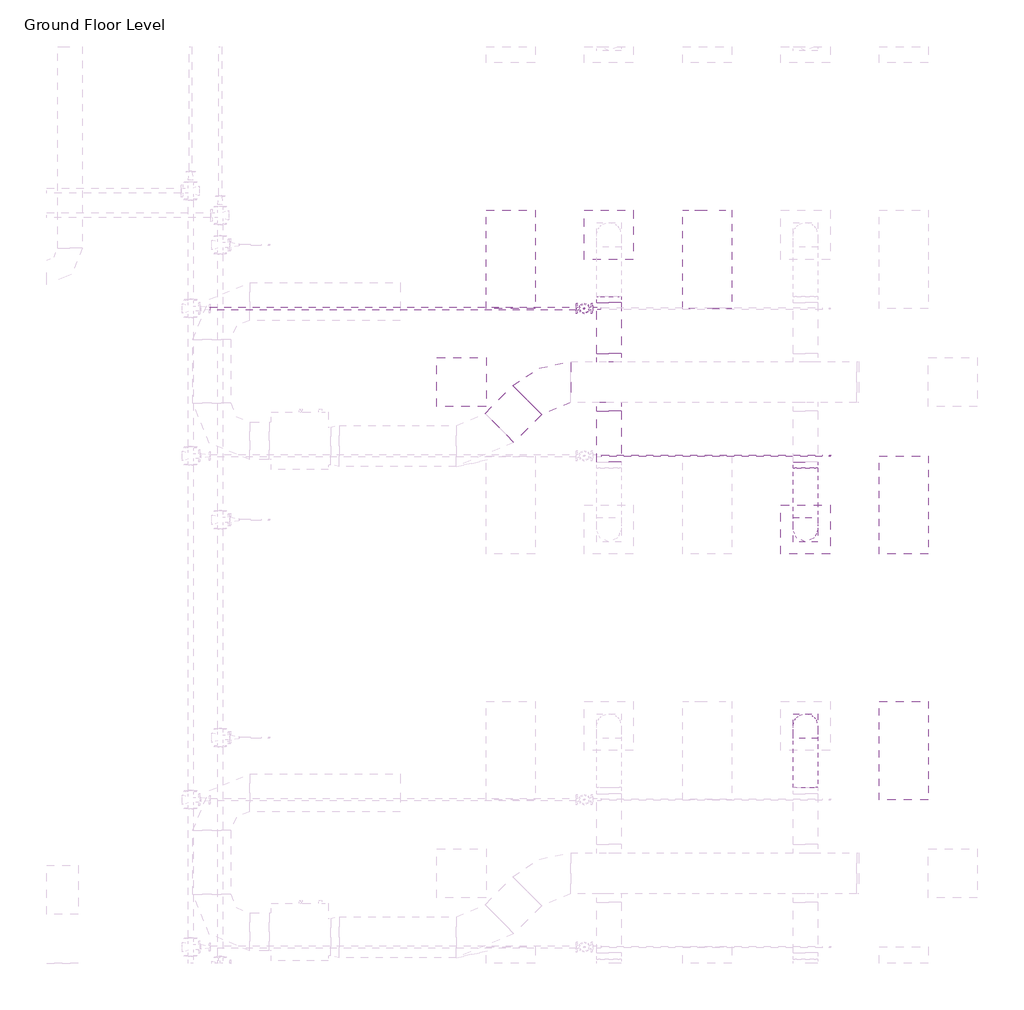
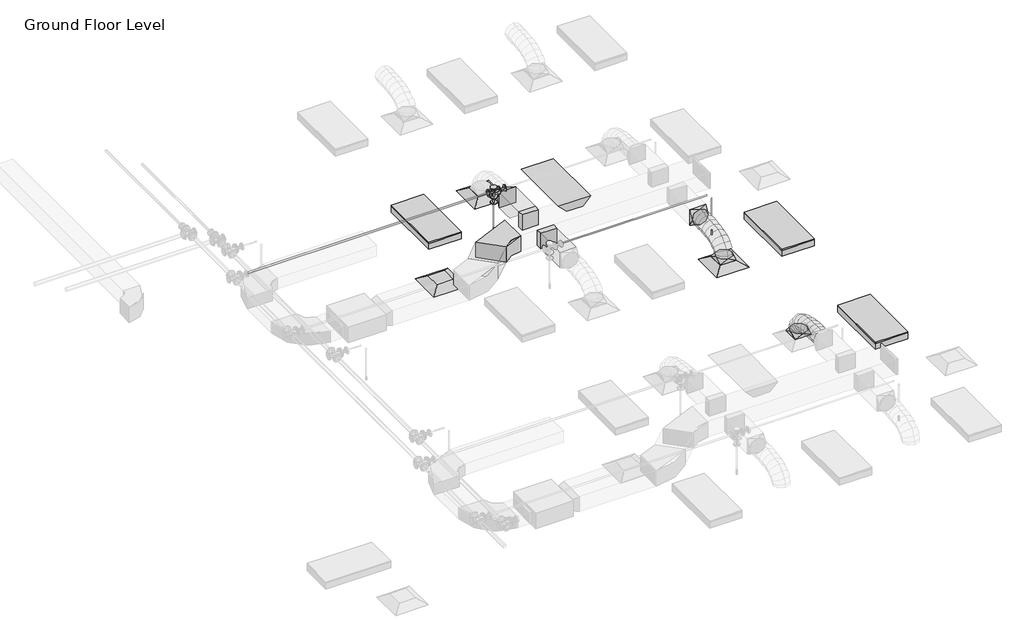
# One storey, part 64 of 68: 7 duct fittings, 5 duct segments, 4 light fixtures, 4 pipe segments, 3 air terminals, 3 pipe fittings, 2 fire suppression terminals.
"""IFC4 building model written with IfcOpenShell, lengths in millimetres."""

from ifc_helpers import new_model, si_unit, point, frame, frame_2d, origin, place, context, project, spatial, polyline, circle_curve, ellipse_curve, trimmed, segment, composite_curve, outline, extrude, transform, mapped, element, save
from ifc_brep_helpers import plane_surface, cylinder_surface, advanced_brep
from components import m_return_diffuser_600_x_600_face_300_x_300_connection_ff221211, m_rectangular_elbow_radius_1_5_w_acc56c25, m_rectangular_takeoff_standard_cb0ccb98, m_rectangular_takeoff_standard_2be5eba1, m_rectangular_to_round_transition_angle_45_degree_641efff0, m_sprinkler_dry_pendent_hosted_15_mm_dry_pendent_9bda8e11, m_emergency_recessed_lighting_fixture_600x1200_277_5b10b25d, m_troffer_light_parabolic_rectangular1_0600x1200mm_4_lamp_86473d4a, m_reducer_flanged_cs_class_150_standard_ccf252ad, m_tee_round_base_flanged_cs_class_150_standard_7e5987a1

model = new_model("IFC4")

# Units and contexts
model_context = context("Model", 3, world=origin())
ifc_project = project(units=[si_unit("LENGTHUNIT", "METRE", prefix="MILLI")], contexts=[model_context])

# Site, building, storey
site = spatial("IfcSite", under=ifc_project)
building = spatial("IfcBuilding", under=site)
storey = spatial("IfcBuildingStorey", under=building, Name="Ground Floor Level", Elevation=900.0)

# Air terminals
placement = place(None, origin())
m_return_diffuser_600_x_600_face_300_x_300_connection_shape = m_return_diffuser_600_x_600_face_300_x_300_connection_ff221211(model_context)
element("IfcAirTerminal", 1, ObjectType="M_Return Diffuser : 600 x 600 Face 300 x 300 Connection", at=placement, inside=storey, context=model_context, shape_type="MappedRepresentation", body=[
    mapped(m_return_diffuser_600_x_600_face_300_x_300_connection_shape, transform((8942.7672395, 12735.2153534, 3650.0), x_axis=(1.0, 0.0, 0.0), y_axis=(0.0, 1.0, 0.0), z_axis=(0.0, 0.0, 1.0))),
])
element("IfcAirTerminal", 2, ObjectType="M_Supply Diffuser : 600 x 600 Face 300 x 300 Connection", at=placement, inside=storey, context=model_context, shape_type="MappedRepresentation", body=[
    mapped(m_return_diffuser_600_x_600_face_300_x_300_connection_shape, transform((10742.7672395, 14535.2153534, 3650.0), x_axis=(1.0, 0.0, 0.0), y_axis=(0.0, 1.0, 0.0), z_axis=(0.0, 0.0, 1.0))),
])
element("IfcAirTerminal", 3, ObjectType="M_Supply Diffuser : 600 x 600 Face 300 x 300 Connection", at=placement, inside=storey, context=model_context, shape_type="MappedRepresentation", body=[
    mapped(m_return_diffuser_600_x_600_face_300_x_300_connection_shape, transform((13142.7672395, 10935.2153534, 3650.0), x_axis=(1.0, 0.0, 0.0), y_axis=(0.0, 1.0, 0.0), z_axis=(0.0, 0.0, 1.0))),
])

# Duct fittings
m_rectangular_elbow_radius_1_5_w_shape = m_rectangular_elbow_radius_1_5_w_acc56c25(model_context)
element("IfcDuctFitting", 4, ObjectType="M_Rectangular Elbow - Radius : 1.5 W", at=placement, inside=storey, context=model_context, shape_type="MappedRepresentation", body=[
    mapped(m_rectangular_elbow_radius_1_5_w_shape, transform((9966.7301365, 12735.2153534, 4100.0), x_axis=(-1.0, 0.0, 0.0), y_axis=(0.0, -0.9999999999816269, 6.061864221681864e-06), z_axis=(0.0, 6.061864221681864e-06, 0.9999999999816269))),
])
m_rectangular_takeoff_standard_shape = m_rectangular_takeoff_standard_cb0ccb98(model_context)
element("IfcDuctFitting", 5, ObjectType="M_Rectangular Takeoff : Standard", at=placement, inside=storey, context=model_context, shape_type="MappedRepresentation", body=[
    mapped(m_rectangular_takeoff_standard_shape, transform((10742.7672395, 12985.2153534, 4100.0), x_axis=(0.0, 1.0, 0.0), y_axis=(1.0, 0.0, 0.0), z_axis=(0.0, 0.0, -1.0))),
])
m_rectangular_takeoff_standard_2_shape = m_rectangular_takeoff_standard_2be5eba1(model_context)
element("IfcDuctFitting", 6, ObjectType="M_Rectangular Takeoff : Standard", at=placement, inside=storey, context=model_context, shape_type="MappedRepresentation", body=[
    mapped(m_rectangular_takeoff_standard_2_shape, transform((10742.7672395, 12485.2153534, 4100.0), x_axis=(0.0, -1.0, 0.0), y_axis=(-1.0, 0.0, 0.0), z_axis=(0.0, 0.0, -1.0))),
])
m_rectangular_to_round_transition_angle_45_degree_shape = m_rectangular_to_round_transition_angle_45_degree_641efff0(model_context)
element("IfcDuctFitting", 7, ObjectType="M_Rectangular to Round Transition - Angle : 45 Degree", at=placement, inside=storey, context=model_context, shape_type="MappedRepresentation", body=[
    mapped(m_rectangular_to_round_transition_angle_45_degree_shape, transform((13142.7672395, 8535.2153534, 3751.6), x_axis=(0.0, 0.0, 1.0), y_axis=(-1.0, 0.0, 0.0), z_axis=(0.0, -1.0, 0.0))),
])
element("IfcDuctFitting", 8, ObjectType="M_Rectangular to Round Transition - Angle : 45 Degree", at=placement, inside=storey, context=model_context, shape_type="MappedRepresentation", body=[
    mapped(m_rectangular_to_round_transition_angle_45_degree_shape, transform((10742.7672395, 13707.8794221, 4100.0), x_axis=(0.0, 1.0, 0.0), y_axis=(-1.0, 0.0, 0.0), z_axis=(0.0, 0.0, 1.0))),
])
element("IfcDuctFitting", 9, ObjectType="M_Rectangular to Round Transition - Angle : 45 Degree", at=placement, inside=storey, context=model_context, shape_type="MappedRepresentation", body=[
    mapped(m_rectangular_to_round_transition_angle_45_degree_shape, transform((13142.7672395, 10935.2153534, 3751.6), x_axis=(0.0, 0.0, 1.0), y_axis=(-1.0, 0.0, 0.0), z_axis=(0.0, -1.0, 0.0))),
])
element("IfcDuctFitting", 10, ObjectType="M_Rectangular to Round Transition - Angle : 45 Degree", at=placement, inside=storey, context=model_context, shape_type="MappedRepresentation", body=[
    mapped(m_rectangular_to_round_transition_angle_45_degree_shape, transform((13142.7672395, 11762.5512847, 4100.0), x_axis=(0.0, -1.0, 0.0), y_axis=(1.0, 0.0, 0.0), z_axis=(0.0, 0.0, 1.0))),
])

# Duct segments
element("IfcDuctSegment", 11, ObjectType="Flex - Round", at=placement, inside=storey, context=model_context, shape_type="AdvancedBrep", body=[
    advanced_brep(
    [(13292.7672395, 8535.2153534, 3826.6), (13142.7672395, 8385.2153534, 3826.6), (12992.7672395, 8535.2153534, 3826.6), (13142.7672395, 8685.2153534, 3826.6), (13292.7672395, 8535.2153534, 3857.9377114), (13142.7672395, 8385.2153534, 3832.2944892), (12992.7672395, 8535.2153534, 3857.9377114), (13142.7672395, 8685.2153534, 3883.5809337), (13292.7672395, 8518.1994208, 3906.2505728), (13142.7672395, 8384.4614419, 3834.435049), (12992.7672395, 8518.1994208, 3906.2505728), (13142.7672395, 8651.9373998, 3978.0660967), (13292.7672395, 8471.0155405, 3968.7113131), (13142.7672395, 8366.8096412, 3857.8020236), (12992.7672395, 8471.0155405, 3968.7113131), (13142.7672395, 8575.2214397, 4079.6206026), (13292.7672395, 8399.4595883, 4016.0700639), (13142.7672395, 8330.5255327, 3881.8163788), (12992.7672395, 8399.4595883, 4016.0700639), (13142.7672395, 8468.3936439, 4150.3237489), (13292.7672395, 8309.3274403, 4050.4146682), (13142.7672395, 8265.7666771, 3906.4925606), (12992.7672395, 8309.3274403, 4050.4146682), (13142.7672395, 8352.8882035, 4194.3367758), (13292.7672395, 8206.4149725, 4073.8329691), (13142.7672395, 8179.8540485, 3926.0424542), (12992.7672395, 8206.4149725, 4073.8329691), (13142.7672395, 8232.9758965, 4221.6234841), (13292.7672395, 8096.5180607, 4088.4128097), (13142.7672395, 8081.3671584, 3939.1085462), (12992.7672395, 8096.5180607, 4088.4128097), (13142.7672395, 8111.6689631, 4237.7170733), (13292.7672395, 7985.4325811, 4096.242033), (13142.7672395, 7977.9272529, 3946.398915), (12992.7672395, 7985.4325811, 4096.242033), (13142.7672395, 7992.9379093, 4246.085151), (13292.7672395, 7878.9544096, 4099.4084821), (13142.7672395, 7876.2629165, 3949.4222102), (12992.7672395, 7878.9544096, 4099.4084821), (13142.7672395, 7881.6459027, 4249.394754), (13292.7672395, 7782.8794221, 4100.0), (13142.7672395, 7783.8029299, 4249.9971571), (12992.7672395, 7782.8794221, 4100.0), (13142.7672395, 7781.9559143, 3950.0028429)],
    [
        (0, 1, circle_curve(frame((13142.7672395, 8535.2153534, 3826.6), z_axis=(0.0, 0.0, -1.0), x_axis=(1.0, 0.0, 0.0)), 150.0)),
        (1, 2, circle_curve(frame((13142.7672395, 8535.2153534, 3826.6), z_axis=(0.0, 0.0, -1.0), x_axis=(1.0, 0.0, 0.0)), 150.0)),
        (2, 3, circle_curve(frame((13142.7672395, 8535.2153534, 3826.6), z_axis=(0.0, 0.0, -1.0), x_axis=(1.0, 0.0, 0.0)), 150.0)),
        (3, 0, circle_curve(frame((13142.7672395, 8535.2153534, 3826.6), z_axis=(0.0, 0.0, -1.0), x_axis=(1.0, 0.0, 0.0)), 150.0)),
        (0, 4),
        (4, 5, ellipse_curve(frame((13142.7672395, 8535.2153534, 3857.9377114), z_axis=(0.0, 0.16851014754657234, -0.9856999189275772), x_axis=(0.0, -0.9856999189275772, -0.1685101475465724)), 152.176131, 150.0)),
        (5, 1),
        (5, 6, ellipse_curve(frame((13142.7672395, 8535.2153534, 3857.9377114), z_axis=(0.0, 0.16851014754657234, -0.9856999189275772), x_axis=(0.0, -0.9856999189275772, -0.1685101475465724)), 152.176131, 150.0)),
        (6, 2),
        (6, 7, ellipse_curve(frame((13142.7672395, 8535.2153534, 3857.9377114), z_axis=(0.0, 0.16851014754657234, -0.9856999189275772), x_axis=(0.0, -0.9856999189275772, -0.1685101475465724)), 152.176131, 150.0)),
        (7, 3),
        (7, 4, ellipse_curve(frame((13142.7672395, 8535.2153534, 3857.9377114), z_axis=(0.0, 0.16851014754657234, -0.9856999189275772), x_axis=(0.0, -0.9856999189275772, -0.1685101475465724)), 152.176131, 150.0)),
        (4, 8),
        (8, 9, ellipse_curve(frame((13142.7672395, 8518.1994208, 3906.2505728), z_axis=(0.0, 0.4730922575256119, -0.8810128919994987), x_axis=(0.0, -0.8810128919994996, -0.47309225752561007)), 151.8002519, 150.0)),
        (9, 5),
        (9, 10, ellipse_curve(frame((13142.7672395, 8518.1994208, 3906.2505728), z_axis=(0.0, 0.4730922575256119, -0.8810128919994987), x_axis=(0.0, -0.8810128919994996, -0.47309225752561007)), 151.8002519, 150.0)),
        (10, 6),
        (10, 11, ellipse_curve(frame((13142.7672395, 8518.1994208, 3906.2505728), z_axis=(0.0, 0.4730922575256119, -0.8810128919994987), x_axis=(0.0, -0.8810128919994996, -0.47309225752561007)), 151.8002519, 150.0)),
        (11, 7),
        (11, 8, ellipse_curve(frame((13142.7672395, 8518.1994208, 3906.2505728), z_axis=(0.0, 0.4730922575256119, -0.8810128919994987), x_axis=(0.0, -0.8810128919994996, -0.47309225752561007)), 151.8002519, 150.0)),
        (8, 12),
        (12, 13, ellipse_curve(frame((13142.7672395, 8471.0155405, 3968.7113131), z_axis=(0.0, 0.7287877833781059, -0.6847396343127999), x_axis=(0.0, -0.6847396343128, -0.7287877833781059)), 152.1832446, 150.0)),
        (13, 9),
        (13, 14, ellipse_curve(frame((13142.7672395, 8471.0155405, 3968.7113131), z_axis=(0.0, 0.7287877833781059, -0.6847396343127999), x_axis=(0.0, -0.6847396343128, -0.7287877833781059)), 152.1832446, 150.0)),
        (14, 10),
        (14, 15, ellipse_curve(frame((13142.7672395, 8471.0155405, 3968.7113131), z_axis=(0.0, 0.7287877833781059, -0.6847396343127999), x_axis=(0.0, -0.6847396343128, -0.7287877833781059)), 152.1832446, 150.0)),
        (15, 11),
        (15, 12, ellipse_curve(frame((13142.7672395, 8471.0155405, 3968.7113131), z_axis=(0.0, 0.7287877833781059, -0.6847396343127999), x_axis=(0.0, -0.6847396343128, -0.7287877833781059)), 152.1832446, 150.0)),
        (12, 16),
        (16, 17, ellipse_curve(frame((13142.7672395, 8399.4595883, 4016.0700639), z_axis=(0.0, 0.8895859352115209, -0.4567678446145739), x_axis=(0.0, -0.4567678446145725, -0.8895859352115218)), 150.91705, 150.0)),
        (17, 13),
        (17, 18, ellipse_curve(frame((13142.7672395, 8399.4595883, 4016.0700639), z_axis=(0.0, 0.8895859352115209, -0.4567678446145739), x_axis=(0.0, -0.4567678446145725, -0.8895859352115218)), 150.91705, 150.0)),
        (18, 14),
        (18, 19, ellipse_curve(frame((13142.7672395, 8399.4595883, 4016.0700639), z_axis=(0.0, 0.8895859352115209, -0.4567678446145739), x_axis=(0.0, -0.4567678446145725, -0.8895859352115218)), 150.91705, 150.0)),
        (19, 15),
        (19, 16, ellipse_curve(frame((13142.7672395, 8399.4595883, 4016.0700639), z_axis=(0.0, 0.8895859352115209, -0.4567678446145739), x_axis=(0.0, -0.4567678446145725, -0.8895859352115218)), 150.91705, 150.0)),
        (16, 20),
        (20, 21, ellipse_curve(frame((13142.7672395, 8309.3274403, 4050.4146682), z_axis=(0.0, 0.9571203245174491, -0.28969067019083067), x_axis=(0.0, -0.28969067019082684, -0.9571203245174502)), 150.369921, 150.0)),
        (21, 17),
        (21, 22, ellipse_curve(frame((13142.7672395, 8309.3274403, 4050.4146682), z_axis=(0.0, 0.9571203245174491, -0.28969067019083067), x_axis=(0.0, -0.28969067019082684, -0.9571203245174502)), 150.369921, 150.0)),
        (22, 18),
        (22, 23, ellipse_curve(frame((13142.7672395, 8309.3274403, 4050.4146682), z_axis=(0.0, 0.9571203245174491, -0.28969067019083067), x_axis=(0.0, -0.28969067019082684, -0.9571203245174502)), 150.369921, 150.0)),
        (23, 19),
        (23, 20, ellipse_curve(frame((13142.7672395, 8309.3274403, 4050.4146682), z_axis=(0.0, 0.9571203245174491, -0.28969067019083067), x_axis=(0.0, -0.28969067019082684, -0.9571203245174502)), 150.369921, 150.0)),
        (20, 24),
        (24, 25, ellipse_curve(frame((13142.7672395, 8206.4149725, 4073.8329691), z_axis=(0.0, 0.9842313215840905, -0.17688613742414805), x_axis=(0.0, -0.17688613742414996, -0.9842313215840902)), 150.1583131, 150.0)),
        (25, 21),
        (25, 26, ellipse_curve(frame((13142.7672395, 8206.4149725, 4073.8329691), z_axis=(0.0, 0.9842313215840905, -0.17688613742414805), x_axis=(0.0, -0.17688613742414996, -0.9842313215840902)), 150.1583131, 150.0)),
        (26, 22),
        (26, 27, ellipse_curve(frame((13142.7672395, 8206.4149725, 4073.8329691), z_axis=(0.0, 0.9842313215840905, -0.17688613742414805), x_axis=(0.0, -0.17688613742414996, -0.9842313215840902)), 150.1583131, 150.0)),
        (27, 23),
        (27, 24, ellipse_curve(frame((13142.7672395, 8206.4149725, 4073.8329691), z_axis=(0.0, 0.9842313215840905, -0.17688613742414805), x_axis=(0.0, -0.17688613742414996, -0.9842313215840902)), 150.1583131, 150.0)),
        (24, 28),
        (28, 29, ellipse_curve(frame((13142.7672395, 8096.5180607, 4088.4128097), z_axis=(0.0, 0.9948906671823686, -0.10095821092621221), x_axis=(0.0, -0.10095821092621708, -0.9948906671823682)), 150.0710264, 150.0)),
        (29, 25),
        (29, 30, ellipse_curve(frame((13142.7672395, 8096.5180607, 4088.4128097), z_axis=(0.0, 0.9948906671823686, -0.10095821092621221), x_axis=(0.0, -0.10095821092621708, -0.9948906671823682)), 150.0710264, 150.0)),
        (30, 26),
        (30, 31, ellipse_curve(frame((13142.7672395, 8096.5180607, 4088.4128097), z_axis=(0.0, 0.9948906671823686, -0.10095821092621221), x_axis=(0.0, -0.10095821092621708, -0.9948906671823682)), 150.0710264, 150.0)),
        (31, 27),
        (31, 28, ellipse_curve(frame((13142.7672395, 8096.5180607, 4088.4128097), z_axis=(0.0, 0.9948906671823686, -0.10095821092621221), x_axis=(0.0, -0.10095821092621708, -0.9948906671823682)), 150.0710264, 150.0)),
        (28, 32),
        (32, 33, ellipse_curve(frame((13142.7672395, 7985.4325811, 4096.242033), z_axis=(0.0, 0.9987479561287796, -0.05002519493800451), x_axis=(0.0, -0.050025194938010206, -0.9987479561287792)), 150.0309634, 150.0)),
        (33, 29),
        (33, 34, ellipse_curve(frame((13142.7672395, 7985.4325811, 4096.242033), z_axis=(0.0, 0.9987479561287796, -0.05002519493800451), x_axis=(0.0, -0.050025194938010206, -0.9987479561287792)), 150.0309634, 150.0)),
        (34, 30),
        (34, 35, ellipse_curve(frame((13142.7672395, 7985.4325811, 4096.242033), z_axis=(0.0, 0.9987479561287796, -0.05002519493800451), x_axis=(0.0, -0.050025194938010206, -0.9987479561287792)), 150.0309634, 150.0)),
        (35, 31),
        (35, 32, ellipse_curve(frame((13142.7672395, 7985.4325811, 4096.242033), z_axis=(0.0, 0.9987479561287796, -0.05002519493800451), x_axis=(0.0, -0.050025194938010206, -0.9987479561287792)), 150.0309634, 150.0)),
        (32, 36),
        (36, 37, ellipse_curve(frame((13142.7672395, 7878.9544096, 4099.4084821), z_axis=(0.0, 0.9998390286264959, -0.017942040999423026), x_axis=(0.0, -0.01794204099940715, -0.9998390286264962)), 150.0104193, 150.0)),
        (37, 33),
        (37, 38, ellipse_curve(frame((13142.7672395, 7878.9544096, 4099.4084821), z_axis=(0.0, 0.9998390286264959, -0.017942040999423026), x_axis=(0.0, -0.01794204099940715, -0.9998390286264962)), 150.0104193, 150.0)),
        (38, 34),
        (38, 39, ellipse_curve(frame((13142.7672395, 7878.9544096, 4099.4084821), z_axis=(0.0, 0.9998390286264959, -0.017942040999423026), x_axis=(0.0, -0.01794204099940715, -0.9998390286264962)), 150.0104193, 150.0)),
        (39, 35),
        (39, 36, ellipse_curve(frame((13142.7672395, 7878.9544096, 4099.4084821), z_axis=(0.0, 0.9998390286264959, -0.017942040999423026), x_axis=(0.0, -0.01794204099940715, -0.9998390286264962)), 150.0104193, 150.0)),
        (40, 41, circle_curve(frame((13142.7672395, 7782.8794221, 4100.0), z_axis=(0.0, -0.9999810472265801, 0.006156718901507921), x_axis=(1.0, 0.0, 0.0)), 150.0)),
        (41, 42, circle_curve(frame((13142.7672395, 7782.8794221, 4100.0), z_axis=(0.0, -0.9999810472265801, 0.006156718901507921), x_axis=(1.0, 0.0, 0.0)), 150.0)),
        (42, 43, circle_curve(frame((13142.7672395, 7782.8794221, 4100.0), z_axis=(0.0, -0.9999810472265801, 0.006156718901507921), x_axis=(1.0, 0.0, 0.0)), 150.0)),
        (43, 40, circle_curve(frame((13142.7672395, 7782.8794221, 4100.0), z_axis=(0.0, -0.9999810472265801, 0.006156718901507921), x_axis=(1.0, 0.0, 0.0)), 150.0)),
        (36, 40),
        (43, 37),
        (42, 38),
        (41, 39),
    ],
    [
        plane_surface(frame((13142.7672395, 8385.2153534, 3826.6), z_axis=(0.0, 0.0, -1.0), x_axis=(1.0, 0.0, 0.0))),
        cylinder_surface(frame((13142.7672395, 8535.2153534, 3826.6), z_axis=(0.0, 0.0, -1.0), x_axis=(1.0, 0.0, 0.0)), 150.0),
        cylinder_surface(frame((13142.7672395, 8535.2153534, 3857.9377114), z_axis=(0.0, 0.3322008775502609, -0.9432086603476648), x_axis=(1.0, 0.0, 0.0)), 150.0),
        cylinder_surface(frame((13142.7672395, 8518.1994208, 3906.2505728), z_axis=(0.0, 0.6027625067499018, -0.7979206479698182), x_axis=(1.0, 0.0, 0.0)), 150.0),
        cylinder_surface(frame((13142.7672395, 8471.0155405, 3968.7113131), z_axis=(0.0, 0.8339024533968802, -0.5519118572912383), x_axis=(1.0, 0.0, 0.0)), 150.0),
        cylinder_surface(frame((13142.7672395, 8399.4595883, 4016.0700639), z_axis=(0.0, 0.934458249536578, -0.35607271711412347), x_axis=(1.0, 0.0, 0.0)), 150.0),
        cylinder_surface(frame((13142.7672395, 8309.3274403, 4050.4146682), z_axis=(0.0, 0.9750732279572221, -0.22188330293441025), x_axis=(1.0, 0.0, 0.0)), 150.0),
        cylinder_surface(frame((13142.7672395, 8206.4149725, 4073.8329691), z_axis=(0.0, 0.9913140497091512, -0.1315159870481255), x_axis=(1.0, 0.0, 0.0)), 150.0),
        cylinder_surface(frame((13142.7672395, 8096.5180607, 4088.4128097), z_axis=(0.0, 0.9975255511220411, -0.07030487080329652), x_axis=(1.0, 0.0, 0.0)), 150.0),
        cylinder_surface(frame((13142.7672395, 7985.4325811, 4096.242033), z_axis=(0.0, 0.9995581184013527, -0.02972487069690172), x_axis=(1.0, 0.0, 0.0)), 150.0),
        plane_surface(frame((13142.7672395, 7781.9559143, 3950.0028429), z_axis=(0.0, -0.9999810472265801, 0.006156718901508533), x_axis=(1.0, 0.0, 0.0))),
        cylinder_surface(frame((13142.7672395, 7878.9544096, 4099.4084821), z_axis=(0.0, 0.9999810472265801, -0.006156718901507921), x_axis=(1.0, 0.0, 0.0)), 150.0),
    ],
    [
        (0, [[1, 2, 3, 4]]),
        (1, [[-1, 5, 6, 7]]),
        (1, [[-2, -7, 8, 9]]),
        (1, [[-3, -9, 10, 11]]),
        (1, [[-4, -11, 12, -5]]),
        (2, [[-6, 13, 14, 15]]),
        (2, [[-8, -15, 16, 17]]),
        (2, [[-10, -17, 18, 19]]),
        (2, [[-12, -19, 20, -13]]),
        (3, [[-14, 21, 22, 23]]),
        (3, [[-16, -23, 24, 25]]),
        (3, [[-18, -25, 26, 27]]),
        (3, [[-20, -27, 28, -21]]),
        (4, [[-22, 29, 30, 31]]),
        (4, [[-24, -31, 32, 33]]),
        (4, [[-26, -33, 34, 35]]),
        (4, [[-28, -35, 36, -29]]),
        (5, [[-30, 37, 38, 39]]),
        (5, [[-32, -39, 40, 41]]),
        (5, [[-34, -41, 42, 43]]),
        (5, [[-36, -43, 44, -37]]),
        (6, [[-38, 45, 46, 47]]),
        (6, [[-40, -47, 48, 49]]),
        (6, [[-42, -49, 50, 51]]),
        (6, [[-44, -51, 52, -45]]),
        (7, [[-46, 53, 54, 55]]),
        (7, [[-48, -55, 56, 57]]),
        (7, [[-50, -57, 58, 59]]),
        (7, [[-52, -59, 60, -53]]),
        (8, [[-54, 61, 62, 63]]),
        (8, [[-56, -63, 64, 65]]),
        (8, [[-58, -65, 66, 67]]),
        (8, [[-60, -67, 68, -61]]),
        (9, [[-62, 69, 70, 71]]),
        (9, [[-64, -71, 72, 73]]),
        (9, [[-66, -73, 74, 75]]),
        (9, [[-68, -75, 76, -69]]),
        (10, [[77, 78, 79, 80]]),
        (11, [[-70, 81, -80, 82]]),
        (11, [[-72, -82, -79, 83]]),
        (11, [[-74, -83, -78, 84]]),
        (11, [[-76, -84, -77, -81]]),
    ],
),
])
element("IfcDuctSegment", 12, ObjectType="Flex - Round", at=placement, inside=storey, context=model_context, shape_type="AdvancedBrep", body=[
    advanced_brep(
    [(13292.7672395, 10935.2153534, 3826.6), (13142.7672395, 10785.2153534, 3826.6), (12992.7672395, 10935.2153534, 3826.6), (13142.7672395, 11085.2153534, 3826.6), (13292.7672395, 10935.2153534, 3857.9377114), (13142.7672395, 10785.2153534, 3883.5809337), (12992.7672395, 10935.2153534, 3857.9377114), (13142.7672395, 11085.2153534, 3832.2944892), (13292.7672395, 10952.2312859, 3906.2505728), (13142.7672395, 10818.493307, 3978.0660967), (12992.7672395, 10952.2312859, 3906.2505728), (13142.7672395, 11085.9692649, 3834.435049), (13292.7672395, 10999.4151663, 3968.7113131), (13142.7672395, 10895.209267, 4079.6206026), (12992.7672395, 10999.4151663, 3968.7113131), (13142.7672395, 11103.6210655, 3857.8020236), (13292.7672395, 11070.9711184, 4016.0700639), (13142.7672395, 11002.0370628, 4150.3237489), (12992.7672395, 11070.9711184, 4016.0700639), (13142.7672395, 11139.9051741, 3881.8163788), (13292.7672395, 11161.1032664, 4050.4146682), (13142.7672395, 11117.5425033, 4194.3367758), (12992.7672395, 11161.1032664, 4050.4146682), (13142.7672395, 11204.6640296, 3906.4925606), (13292.7672395, 11264.0157343, 4073.8329691), (13142.7672395, 11237.4548103, 4221.6234841), (12992.7672395, 11264.0157343, 4073.8329691), (13142.7672395, 11290.5766583, 3926.0424542), (13292.7672395, 11373.912646, 4088.4128097), (13142.7672395, 11358.7617437, 4237.7170733), (12992.7672395, 11373.912646, 4088.4128097), (13142.7672395, 11389.0635483, 3939.1085462), (13292.7672395, 11484.9981256, 4096.242033), (13142.7672395, 11477.4927975, 4246.085151), (12992.7672395, 11484.9981256, 4096.242033), (13142.7672395, 11492.5034538, 3946.398915), (13292.7672395, 11591.4762972, 4099.4084821), (13142.7672395, 11588.7848041, 4249.394754), (12992.7672395, 11591.4762972, 4099.4084821), (13142.7672395, 11594.1677903, 3949.4222102), (13292.7672395, 11687.5512847, 4100.0), (13142.7672395, 11688.4747925, 3950.0028429), (12992.7672395, 11687.5512847, 4100.0), (13142.7672395, 11686.6277768, 4249.9971571)],
    [
        (0, 1, circle_curve(frame((13142.7672395, 10935.2153534, 3826.6), z_axis=(0.0, 0.0, -1.0), x_axis=(1.0, 0.0, 0.0)), 150.0)),
        (1, 2, circle_curve(frame((13142.7672395, 10935.2153534, 3826.6), z_axis=(0.0, 0.0, -1.0), x_axis=(1.0, 0.0, 0.0)), 150.0)),
        (2, 3, circle_curve(frame((13142.7672395, 10935.2153534, 3826.6), z_axis=(0.0, 0.0, -1.0), x_axis=(1.0, 0.0, 0.0)), 150.0)),
        (3, 0, circle_curve(frame((13142.7672395, 10935.2153534, 3826.6), z_axis=(0.0, 0.0, -1.0), x_axis=(1.0, 0.0, 0.0)), 150.0)),
        (0, 4),
        (4, 5, ellipse_curve(frame((13142.7672395, 10935.2153534, 3857.9377114), z_axis=(0.0, -0.16851014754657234, -0.9856999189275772), x_axis=(0.0, 0.9856999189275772, -0.1685101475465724)), 152.176131, 150.0)),
        (5, 1),
        (5, 6, ellipse_curve(frame((13142.7672395, 10935.2153534, 3857.9377114), z_axis=(0.0, -0.16851014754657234, -0.9856999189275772), x_axis=(0.0, 0.9856999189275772, -0.1685101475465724)), 152.176131, 150.0)),
        (6, 2),
        (6, 7, ellipse_curve(frame((13142.7672395, 10935.2153534, 3857.9377114), z_axis=(0.0, -0.16851014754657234, -0.9856999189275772), x_axis=(0.0, 0.9856999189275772, -0.1685101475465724)), 152.176131, 150.0)),
        (7, 3),
        (7, 4, ellipse_curve(frame((13142.7672395, 10935.2153534, 3857.9377114), z_axis=(0.0, -0.16851014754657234, -0.9856999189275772), x_axis=(0.0, 0.9856999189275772, -0.1685101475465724)), 152.176131, 150.0)),
        (4, 8),
        (8, 9, ellipse_curve(frame((13142.7672395, 10952.2312859, 3906.2505728), z_axis=(0.0, -0.47309225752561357, -0.8810128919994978), x_axis=(0.0, 0.8810128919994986, -0.47309225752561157)), 151.8002519, 150.0)),
        (9, 5),
        (9, 10, ellipse_curve(frame((13142.7672395, 10952.2312859, 3906.2505728), z_axis=(0.0, -0.47309225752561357, -0.8810128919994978), x_axis=(0.0, 0.8810128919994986, -0.47309225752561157)), 151.8002519, 150.0)),
        (10, 6),
        (10, 11, ellipse_curve(frame((13142.7672395, 10952.2312859, 3906.2505728), z_axis=(0.0, -0.47309225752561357, -0.8810128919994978), x_axis=(0.0, 0.8810128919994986, -0.47309225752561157)), 151.8002519, 150.0)),
        (11, 7),
        (11, 8, ellipse_curve(frame((13142.7672395, 10952.2312859, 3906.2505728), z_axis=(0.0, -0.47309225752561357, -0.8810128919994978), x_axis=(0.0, 0.8810128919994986, -0.47309225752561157)), 151.8002519, 150.0)),
        (8, 12),
        (12, 13, ellipse_curve(frame((13142.7672395, 10999.4151663, 3968.7113131), z_axis=(0.0, -0.7287877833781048, -0.6847396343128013), x_axis=(0.0, 0.6847396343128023, -0.7287877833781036)), 152.1832446, 150.0)),
        (13, 9),
        (13, 14, ellipse_curve(frame((13142.7672395, 10999.4151663, 3968.7113131), z_axis=(0.0, -0.7287877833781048, -0.6847396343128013), x_axis=(0.0, 0.6847396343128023, -0.7287877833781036)), 152.1832446, 150.0)),
        (14, 10),
        (14, 15, ellipse_curve(frame((13142.7672395, 10999.4151663, 3968.7113131), z_axis=(0.0, -0.7287877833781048, -0.6847396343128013), x_axis=(0.0, 0.6847396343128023, -0.7287877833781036)), 152.1832446, 150.0)),
        (15, 11),
        (15, 12, ellipse_curve(frame((13142.7672395, 10999.4151663, 3968.7113131), z_axis=(0.0, -0.7287877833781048, -0.6847396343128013), x_axis=(0.0, 0.6847396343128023, -0.7287877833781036)), 152.1832446, 150.0)),
        (12, 16),
        (16, 17, ellipse_curve(frame((13142.7672395, 11070.9711184, 4016.0700639), z_axis=(0.0, -0.8895859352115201, -0.45676784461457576), x_axis=(0.0, 0.45676784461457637, -0.8895859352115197)), 150.91705, 150.0)),
        (17, 13),
        (17, 18, ellipse_curve(frame((13142.7672395, 11070.9711184, 4016.0700639), z_axis=(0.0, -0.8895859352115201, -0.45676784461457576), x_axis=(0.0, 0.45676784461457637, -0.8895859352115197)), 150.91705, 150.0)),
        (18, 14),
        (18, 19, ellipse_curve(frame((13142.7672395, 11070.9711184, 4016.0700639), z_axis=(0.0, -0.8895859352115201, -0.45676784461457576), x_axis=(0.0, 0.45676784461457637, -0.8895859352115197)), 150.91705, 150.0)),
        (19, 15),
        (19, 16, ellipse_curve(frame((13142.7672395, 11070.9711184, 4016.0700639), z_axis=(0.0, -0.8895859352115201, -0.45676784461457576), x_axis=(0.0, 0.45676784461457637, -0.8895859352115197)), 150.91705, 150.0)),
        (16, 20),
        (20, 21, ellipse_curve(frame((13142.7672395, 11161.1032664, 4050.4146682), z_axis=(0.0, -0.9571203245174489, -0.2896906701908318), x_axis=(0.0, 0.28969067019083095, -0.9571203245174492)), 150.369921, 150.0)),
        (21, 17),
        (21, 22, ellipse_curve(frame((13142.7672395, 11161.1032664, 4050.4146682), z_axis=(0.0, -0.9571203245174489, -0.2896906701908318), x_axis=(0.0, 0.28969067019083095, -0.9571203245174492)), 150.369921, 150.0)),
        (22, 18),
        (22, 23, ellipse_curve(frame((13142.7672395, 11161.1032664, 4050.4146682), z_axis=(0.0, -0.9571203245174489, -0.2896906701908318), x_axis=(0.0, 0.28969067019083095, -0.9571203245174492)), 150.369921, 150.0)),
        (23, 19),
        (23, 20, ellipse_curve(frame((13142.7672395, 11161.1032664, 4050.4146682), z_axis=(0.0, -0.9571203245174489, -0.2896906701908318), x_axis=(0.0, 0.28969067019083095, -0.9571203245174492)), 150.369921, 150.0)),
        (20, 24),
        (24, 25, ellipse_curve(frame((13142.7672395, 11264.0157343, 4073.8329691), z_axis=(0.0, -0.9842313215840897, -0.17688613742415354), x_axis=(0.0, 0.1768861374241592, -0.9842313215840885)), 150.1583131, 150.0)),
        (25, 21),
        (25, 26, ellipse_curve(frame((13142.7672395, 11264.0157343, 4073.8329691), z_axis=(0.0, -0.9842313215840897, -0.17688613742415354), x_axis=(0.0, 0.1768861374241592, -0.9842313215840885)), 150.1583131, 150.0)),
        (26, 22),
        (26, 27, ellipse_curve(frame((13142.7672395, 11264.0157343, 4073.8329691), z_axis=(0.0, -0.9842313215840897, -0.17688613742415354), x_axis=(0.0, 0.1768861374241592, -0.9842313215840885)), 150.1583131, 150.0)),
        (27, 23),
        (27, 24, ellipse_curve(frame((13142.7672395, 11264.0157343, 4073.8329691), z_axis=(0.0, -0.9842313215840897, -0.17688613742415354), x_axis=(0.0, 0.1768861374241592, -0.9842313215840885)), 150.1583131, 150.0)),
        (24, 28),
        (28, 29, ellipse_curve(frame((13142.7672395, 11373.912646, 4088.4128097), z_axis=(0.0, -0.9948906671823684, -0.10095821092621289), x_axis=(0.0, 0.10095821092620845, -0.9948906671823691)), 150.0710264, 150.0)),
        (29, 25),
        (29, 30, ellipse_curve(frame((13142.7672395, 11373.912646, 4088.4128097), z_axis=(0.0, -0.9948906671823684, -0.10095821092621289), x_axis=(0.0, 0.10095821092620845, -0.9948906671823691)), 150.0710264, 150.0)),
        (30, 26),
        (30, 31, ellipse_curve(frame((13142.7672395, 11373.912646, 4088.4128097), z_axis=(0.0, -0.9948906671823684, -0.10095821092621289), x_axis=(0.0, 0.10095821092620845, -0.9948906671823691)), 150.0710264, 150.0)),
        (31, 27),
        (31, 28, ellipse_curve(frame((13142.7672395, 11373.912646, 4088.4128097), z_axis=(0.0, -0.9948906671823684, -0.10095821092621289), x_axis=(0.0, 0.10095821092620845, -0.9948906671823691)), 150.0710264, 150.0)),
        (28, 32),
        (32, 33, ellipse_curve(frame((13142.7672395, 11484.9981256, 4096.242033), z_axis=(0.0, -0.9987479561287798, -0.050025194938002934), x_axis=(0.0, 0.05002519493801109, -0.9987479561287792)), 150.0309634, 150.0)),
        (33, 29),
        (33, 34, ellipse_curve(frame((13142.7672395, 11484.9981256, 4096.242033), z_axis=(0.0, -0.9987479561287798, -0.050025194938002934), x_axis=(0.0, 0.05002519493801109, -0.9987479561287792)), 150.0309634, 150.0)),
        (34, 30),
        (34, 35, ellipse_curve(frame((13142.7672395, 11484.9981256, 4096.242033), z_axis=(0.0, -0.9987479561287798, -0.050025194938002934), x_axis=(0.0, 0.05002519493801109, -0.9987479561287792)), 150.0309634, 150.0)),
        (35, 31),
        (35, 32, ellipse_curve(frame((13142.7672395, 11484.9981256, 4096.242033), z_axis=(0.0, -0.9987479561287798, -0.050025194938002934), x_axis=(0.0, 0.05002519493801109, -0.9987479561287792)), 150.0309634, 150.0)),
        (32, 36),
        (36, 37, ellipse_curve(frame((13142.7672395, 11591.4762972, 4099.4084821), z_axis=(0.0, -0.9998390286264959, -0.017942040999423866), x_axis=(0.0, 0.017942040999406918, -0.9998390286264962)), 150.0104193, 150.0)),
        (37, 33),
        (37, 38, ellipse_curve(frame((13142.7672395, 11591.4762972, 4099.4084821), z_axis=(0.0, -0.9998390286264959, -0.017942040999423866), x_axis=(0.0, 0.017942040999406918, -0.9998390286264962)), 150.0104193, 150.0)),
        (38, 34),
        (38, 39, ellipse_curve(frame((13142.7672395, 11591.4762972, 4099.4084821), z_axis=(0.0, -0.9998390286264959, -0.017942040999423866), x_axis=(0.0, 0.017942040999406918, -0.9998390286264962)), 150.0104193, 150.0)),
        (39, 35),
        (39, 36, ellipse_curve(frame((13142.7672395, 11591.4762972, 4099.4084821), z_axis=(0.0, -0.9998390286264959, -0.017942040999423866), x_axis=(0.0, 0.017942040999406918, -0.9998390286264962)), 150.0104193, 150.0)),
        (40, 41, circle_curve(frame((13142.7672395, 11687.5512847, 4100.0), z_axis=(0.0, 0.9999810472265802, 0.006156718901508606), x_axis=(1.0, 0.0, 0.0)), 150.0)),
        (41, 42, circle_curve(frame((13142.7672395, 11687.5512847, 4100.0), z_axis=(0.0, 0.9999810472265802, 0.006156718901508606), x_axis=(1.0, 0.0, 0.0)), 150.0)),
        (42, 43, circle_curve(frame((13142.7672395, 11687.5512847, 4100.0), z_axis=(0.0, 0.9999810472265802, 0.006156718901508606), x_axis=(1.0, 0.0, 0.0)), 150.0)),
        (43, 40, circle_curve(frame((13142.7672395, 11687.5512847, 4100.0), z_axis=(0.0, 0.9999810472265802, 0.006156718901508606), x_axis=(1.0, 0.0, 0.0)), 150.0)),
        (36, 40),
        (43, 37),
        (42, 38),
        (41, 39),
    ],
    [
        plane_surface(frame((13142.7672395, 10785.2153534, 3826.6), z_axis=(0.0, 0.0, -1.0), x_axis=(1.0, 0.0, 0.0))),
        cylinder_surface(frame((13142.7672395, 10935.2153534, 3826.6), z_axis=(0.0, 0.0, -1.0), x_axis=(1.0, 0.0, 0.0)), 150.0),
        cylinder_surface(frame((13142.7672395, 10935.2153534, 3857.9377114), z_axis=(0.0, -0.3322008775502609, -0.9432086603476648), x_axis=(1.0, 0.0, 0.0)), 150.0),
        cylinder_surface(frame((13142.7672395, 10952.2312859, 3906.2505728), z_axis=(0.0, -0.6027625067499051, -0.7979206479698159), x_axis=(1.0, 0.0, 0.0)), 150.0),
        cylinder_surface(frame((13142.7672395, 10999.4151663, 3968.7113131), z_axis=(0.0, -0.833902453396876, -0.5519118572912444), x_axis=(1.0, 0.0, 0.0)), 150.0),
        cylinder_surface(frame((13142.7672395, 11070.9711184, 4016.0700639), z_axis=(0.0, -0.9344582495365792, -0.35607271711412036), x_axis=(1.0, 0.0, 0.0)), 150.0),
        cylinder_surface(frame((13142.7672395, 11161.1032664, 4050.4146682), z_axis=(0.0, -0.9750732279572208, -0.22188330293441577), x_axis=(1.0, 0.0, 0.0)), 150.0),
        cylinder_surface(frame((13142.7672395, 11264.0157343, 4073.8329691), z_axis=(0.0, -0.9913140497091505, -0.131515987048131), x_axis=(1.0, 0.0, 0.0)), 150.0),
        cylinder_surface(frame((13142.7672395, 11373.912646, 4088.4128097), z_axis=(0.0, -0.9975255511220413, -0.07030487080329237), x_axis=(1.0, 0.0, 0.0)), 150.0),
        cylinder_surface(frame((13142.7672395, 11484.9981256, 4096.242033), z_axis=(0.0, -0.9995581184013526, -0.029724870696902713), x_axis=(1.0, 0.0, 0.0)), 150.0),
        plane_surface(frame((13142.7672395, 11686.6277768, 4249.9971571), z_axis=(0.0, 0.9999810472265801, 0.0061567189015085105), x_axis=(1.0, 0.0, 0.0))),
        cylinder_surface(frame((13142.7672395, 11591.4762972, 4099.4084821), z_axis=(0.0, -0.9999810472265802, -0.006156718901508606), x_axis=(1.0, 0.0, 0.0)), 150.0),
    ],
    [
        (0, [[1, 2, 3, 4]]),
        (1, [[-1, 5, 6, 7]]),
        (1, [[-2, -7, 8, 9]]),
        (1, [[-3, -9, 10, 11]]),
        (1, [[-4, -11, 12, -5]]),
        (2, [[-6, 13, 14, 15]]),
        (2, [[-8, -15, 16, 17]]),
        (2, [[-10, -17, 18, 19]]),
        (2, [[-12, -19, 20, -13]]),
        (3, [[-14, 21, 22, 23]]),
        (3, [[-16, -23, 24, 25]]),
        (3, [[-18, -25, 26, 27]]),
        (3, [[-20, -27, 28, -21]]),
        (4, [[-22, 29, 30, 31]]),
        (4, [[-24, -31, 32, 33]]),
        (4, [[-26, -33, 34, 35]]),
        (4, [[-28, -35, 36, -29]]),
        (5, [[-30, 37, 38, 39]]),
        (5, [[-32, -39, 40, 41]]),
        (5, [[-34, -41, 42, 43]]),
        (5, [[-36, -43, 44, -37]]),
        (6, [[-38, 45, 46, 47]]),
        (6, [[-40, -47, 48, 49]]),
        (6, [[-42, -49, 50, 51]]),
        (6, [[-44, -51, 52, -45]]),
        (7, [[-46, 53, 54, 55]]),
        (7, [[-48, -55, 56, 57]]),
        (7, [[-50, -57, 58, 59]]),
        (7, [[-52, -59, 60, -53]]),
        (8, [[-54, 61, 62, 63]]),
        (8, [[-56, -63, 64, 65]]),
        (8, [[-58, -65, 66, 67]]),
        (8, [[-60, -67, 68, -61]]),
        (9, [[-62, 69, 70, 71]]),
        (9, [[-64, -71, 72, 73]]),
        (9, [[-66, -73, 74, 75]]),
        (9, [[-68, -75, 76, -69]]),
        (10, [[77, 78, 79, 80]]),
        (11, [[-70, 81, -80, 82]]),
        (11, [[-72, -82, -79, 83]]),
        (11, [[-74, -83, -78, 84]]),
        (11, [[-76, -84, -77, -81]]),
    ],
),
])
element("IfcDuctSegment", 13, ObjectType="Radius Elbows / Taps", at=placement, inside=storey, context=model_context, shape_type="SweptSolid", body=[
    extrude(outline(polyline([(9584.1393452, 11999.0711715), (9230.5859546, 12352.6245621), (9570.2835271, 12692.3221346), (9923.8369177, 12338.768744), (9584.1393452, 11999.0711715)])), frame((0.0, 0.0, 3950.0033908), z_axis=(0.0, 0.0, 1.0), x_axis=(1.0, 0.0, 0.0)), (0.0, 0.0, 1.0), 300.0),
])
element("IfcDuctSegment", 14, ObjectType="Radius Elbows / Taps", at=placement, inside=storey, context=model_context, shape_type="SweptSolid", body=[
    extrude(outline(polyline([(10892.7672395, 13086.8153534), (10592.7672395, 13086.8153534), (10592.7672395, 13707.8794221), (10892.7672395, 13707.8794221), (10892.7672395, 13086.8153534)])), frame((0.0, 0.0, 3950.0), z_axis=(0.0, 0.0, 1.0), x_axis=(1.0, 0.0, 0.0)), (0.0, 0.0, 1.0), 300.0),
])
element("IfcDuctSegment", 15, ObjectType="Radius Elbows / Taps", at=placement, inside=storey, context=model_context, shape_type="SweptSolid", body=[
    extrude(outline(polyline([(10592.7672395, 12383.6153534), (10892.7672395, 12383.6153534), (10892.7672395, 11762.5512847), (10592.7672395, 11762.5512847), (10592.7672395, 12383.6153534)])), frame((0.0, 0.0, 3950.0), z_axis=(0.0, 0.0, 1.0), x_axis=(1.0, 0.0, 0.0)), (0.0, 0.0, 1.0), 300.0),
])

# Fire suppression terminals
m_sprinkler_dry_pendent_hosted_15_mm_dry_pendent_shape = m_sprinkler_dry_pendent_hosted_15_mm_dry_pendent_9bda8e11(model_context)
element("IfcFireSuppressionTerminal", 16, ObjectType="M_Sprinkler - Dry - Pendent - Hosted : 15 mm Dry Pendent", at=placement, inside=storey, context=model_context, shape_type="MappedRepresentation", body=[
    mapped(m_sprinkler_dry_pendent_hosted_15_mm_dry_pendent_shape, transform((10442.7672395, 13635.2153534, 3650.0), x_axis=(1.0, 0.0, 0.0), y_axis=(0.0, -1.0, 0.0), z_axis=(0.0, 0.0, -1.0))),
])
element("IfcFireSuppressionTerminal", 17, ObjectType="M_Sprinkler - Dry - Pendent - Hosted : 15 mm Dry Pendent", at=placement, inside=storey, context=model_context, shape_type="MappedRepresentation", body=[
    mapped(m_sprinkler_dry_pendent_hosted_15_mm_dry_pendent_shape, transform((13442.7672395, 11835.2153534, 3650.0), x_axis=(1.0, 0.0, 0.0), y_axis=(0.0, -1.0, 0.0), z_axis=(0.0, 0.0, -1.0))),
])

# Light fixtures
m_emergency_recessed_lighting_fixture_600x1200_277_shape = m_emergency_recessed_lighting_fixture_600x1200_277_5b10b25d(model_context)
element("IfcLightFixture", 18, ObjectType="M_Emergency Recessed Lighting Fixture : 600x1200 - 277", at=placement, inside=storey, context=model_context, shape_type="MappedRepresentation", body=[
    mapped(m_emergency_recessed_lighting_fixture_600x1200_277_shape, transform((11642.7672395, 13635.2153534, 3650.0), x_axis=(0.0, 1.0, 0.0), y_axis=(-1.0, 0.0, 0.0), z_axis=(0.0, 0.0, 1.0))),
])
m_troffer_light_parabolic_rectangular1_0600x1200mm_4_lamp_shape = m_troffer_light_parabolic_rectangular1_0600x1200mm_4_lamp_86473d4a(model_context)
element("IfcLightFixture", 19, ObjectType="M_Troffer Light - Parabolic Rectangular1 : 0600x1200mm(4 Lamp) - 277V 2", at=placement, inside=storey, context=model_context, shape_type="MappedRepresentation", body=[
    mapped(m_troffer_light_parabolic_rectangular1_0600x1200mm_4_lamp_shape, transform((9483.3013074, 14253.918855, 3650.0), x_axis=(0.0, 1.0, 0.0), y_axis=(-1.0, 0.0, 0.0), z_axis=(0.0, 0.0, 1.0))),
])
element("IfcLightFixture", 20, ObjectType="M_Troffer Light - Parabolic Rectangular1 : 0600x1200mm(4 Lamp) - 277V 2", at=placement, inside=storey, context=model_context, shape_type="MappedRepresentation", body=[
    mapped(m_troffer_light_parabolic_rectangular1_0600x1200mm_4_lamp_shape, transform((14283.3013074, 11253.918855, 3650.0), x_axis=(0.0, 1.0, 0.0), y_axis=(-1.0, 0.0, 0.0), z_axis=(0.0, 0.0, 1.0))),
])
element("IfcLightFixture", 21, ObjectType="M_Troffer Light - Parabolic Rectangular1 : 0600x1200mm(4 Lamp) - 277V 2", at=placement, inside=storey, context=model_context, shape_type="MappedRepresentation", body=[
    mapped(m_troffer_light_parabolic_rectangular1_0600x1200mm_4_lamp_shape, transform((14283.3013074, 8253.9188549, 3650.0), x_axis=(0.0, 1.0, 0.0), y_axis=(-1.0, 0.0, 0.0), z_axis=(0.0, 0.0, 1.0))),
])

# Pipe fittings
m_reducer_flanged_cs_class_150_standard_shape = m_reducer_flanged_cs_class_150_standard_ccf252ad(model_context)
element("IfcPipeFitting", 22, ObjectType="M_Reducer - Flanged - CS - Class 150 : Standard", at=placement, inside=storey, context=model_context, shape_type="MappedRepresentation", body=[
    mapped(m_reducer_flanged_cs_class_150_standard_shape, transform((10543.4758332, 13635.2153534, 4360.0), x_axis=(1.0, 0.0, 0.0), y_axis=(0.0, 0.0, 1.0), z_axis=(0.0, -1.0, 0.0))),
])
element("IfcPipeFitting", 23, ObjectType="M_Reducer - Flanged - CS - Class 150 : Standard", at=placement, inside=storey, context=model_context, shape_type="MappedRepresentation", body=[
    mapped(m_reducer_flanged_cs_class_150_standard_shape, transform((10442.7672395, 13635.2153534, 4259.2914062), x_axis=(0.0, 0.0, -1.0), y_axis=(-1.0, 0.0, 0.0), z_axis=(0.0, 1.0, 0.0))),
])
m_tee_round_base_flanged_cs_class_150_standard_shape = m_tee_round_base_flanged_cs_class_150_standard_7e5987a1(model_context)
element("IfcPipeFitting", 24, ObjectType="M_Tee Round Base - Flanged - CS - Class 150 : Standard", at=placement, inside=storey, context=model_context, shape_type="MappedRepresentation", body=[
    mapped(m_tee_round_base_flanged_cs_class_150_standard_shape, transform((10442.7672395, 13635.2153534, 4360.0), x_axis=(1.0, 0.0, 0.0), y_axis=(0.0, 0.0, 1.0), z_axis=(0.0, -1.0, 0.0))),
])

# Pipe segments
element("IfcPipeSegment", 25, ObjectType="Steel flanged", at=placement, inside=storey, context=model_context, shape_type="SweptSolid", body=[
    extrude(outline(composite_curve([segment(trimmed(circle_curve(frame_2d((13442.7672395, 11835.2153534)), 10.668), [point((13432.0992395, 11835.2153534))], [point((13442.7672395, 11845.8833534))], False, "CARTESIAN"), True, "CONTINUOUS"), segment(trimmed(circle_curve(frame_2d((13442.7672395, 11835.2153534)), 10.668), [point((13442.7672395, 11845.8833534))], [point((13453.4352395, 11835.2153534))], False, "CARTESIAN"), True, "CONTINUOUS"), segment(trimmed(circle_curve(frame_2d((13442.7672395, 11835.2153534)), 10.668), [point((13453.4352395, 11835.2153534))], [point((13442.7672395, 11824.5473534))], False, "CARTESIAN"), True, "CONTINUOUS"), segment(trimmed(circle_curve(frame_2d((13442.7672395, 11835.2153534)), 10.668), [point((13442.7672395, 11824.5473534))], [point((13432.0992395, 11835.2153534))], False, "CARTESIAN"), True, "CONTINUOUS")], self_intersect=False)), frame((0.0, 0.0, 3650.0), z_axis=(0.0, 0.0, 1.0), x_axis=(1.0, 0.0, 0.0)), (0.0, 0.0, 1.0), 616.9914062),
])
element("IfcPipeSegment", 26, ObjectType="Steel flanged", at=placement, inside=storey, context=model_context, shape_type="SweptSolid", body=[
    extrude(outline(composite_curve([segment(trimmed(circle_curve(frame_2d((10442.7672395, 13635.2153534)), 10.668), [point((10432.0992395, 13635.2153534))], [point((10442.7672395, 13645.8833534))], False, "CARTESIAN"), True, "CONTINUOUS"), segment(trimmed(circle_curve(frame_2d((10442.7672395, 13635.2153534)), 10.668), [point((10442.7672395, 13645.8833534))], [point((10453.4352395, 13635.2153534))], False, "CARTESIAN"), True, "CONTINUOUS"), segment(trimmed(circle_curve(frame_2d((10442.7672395, 13635.2153534)), 10.668), [point((10453.4352395, 13635.2153534))], [point((10442.7672395, 13624.5473534))], False, "CARTESIAN"), True, "CONTINUOUS"), segment(trimmed(circle_curve(frame_2d((10442.7672395, 13635.2153534)), 10.668), [point((10442.7672395, 13624.5473534))], [point((10432.0992395, 13635.2153534))], False, "CARTESIAN"), True, "CONTINUOUS")], self_intersect=False)), frame((0.0, 0.0, 3650.0), z_axis=(0.0, 0.0, 1.0), x_axis=(1.0, 0.0, 0.0)), (0.0, 0.0, 1.0), 495.2914062),
])
element("IfcPipeSegment", 27, ObjectType="Steel flanged", at=placement, inside=storey, context=model_context, shape_type="SweptSolid", body=[
    extrude(outline(composite_curve([segment(trimmed(circle_curve(frame_2d((13635.2153534, 4360.0)), 16.7005), [point((13651.9158534, 4360.0))], [point((13635.2153534, 4343.2995))], False, "CARTESIAN"), True, "CONTINUOUS"), segment(trimmed(circle_curve(frame_2d((13635.2153534, 4360.0)), 16.7005), [point((13635.2153534, 4343.2995))], [point((13618.5148534, 4360.0))], False, "CARTESIAN"), True, "CONTINUOUS"), segment(trimmed(circle_curve(frame_2d((13635.2153534, 4360.0)), 16.7005), [point((13618.5148534, 4360.0))], [point((13635.2153534, 4376.7005))], False, "CARTESIAN"), True, "CONTINUOUS"), segment(trimmed(circle_curve(frame_2d((13635.2153534, 4360.0)), 16.7005), [point((13635.2153534, 4376.7005))], [point((13651.9158534, 4360.0))], False, "CARTESIAN"), True, "CONTINUOUS")], self_intersect=False)), frame((5876.869498, 0.0, 0.0), z_axis=(1.0, 0.0, 0.0), x_axis=(0.0, 1.0, 0.0)), (0.0, 0.0, 1.0), 4465.1891477),
])
element("IfcPipeSegment", 28, ObjectType="Steel flanged", at=placement, inside=storey, context=model_context, shape_type="SweptSolid", body=[
    extrude(outline(composite_curve([segment(trimmed(circle_curve(frame_2d((11835.2153534, 4360.0)), 10.668), [point((11845.8833534, 4360.0))], [point((11835.2153534, 4349.332))], False, "CARTESIAN"), True, "CONTINUOUS"), segment(trimmed(circle_curve(frame_2d((11835.2153534, 4360.0)), 10.668), [point((11835.2153534, 4349.332))], [point((11824.5473534, 4360.0))], False, "CARTESIAN"), True, "CONTINUOUS"), segment(trimmed(circle_curve(frame_2d((11835.2153534, 4360.0)), 10.668), [point((11824.5473534, 4360.0))], [point((11835.2153534, 4370.668))], False, "CARTESIAN"), True, "CONTINUOUS"), segment(trimmed(circle_curve(frame_2d((11835.2153534, 4360.0)), 10.668), [point((11835.2153534, 4370.668))], [point((11845.8833534, 4360.0))], False, "CARTESIAN"), True, "CONTINUOUS")], self_intersect=False)), frame((10657.4758332, 0.0, 0.0), z_axis=(1.0, 0.0, 0.0), x_axis=(0.0, 1.0, 0.0)), (0.0, 0.0, 1.0), 2692.2828125),
])

save(model, "model.ifc")
